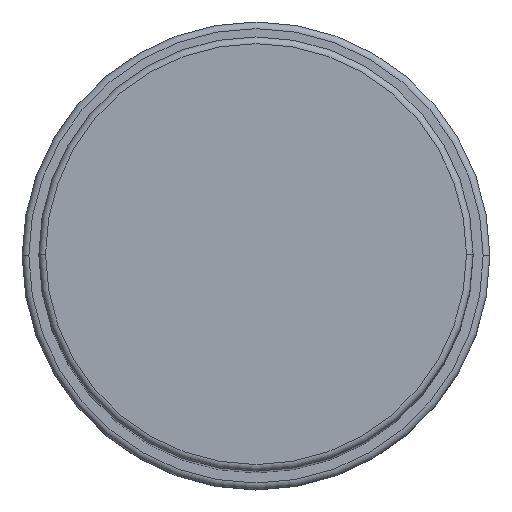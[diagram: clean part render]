
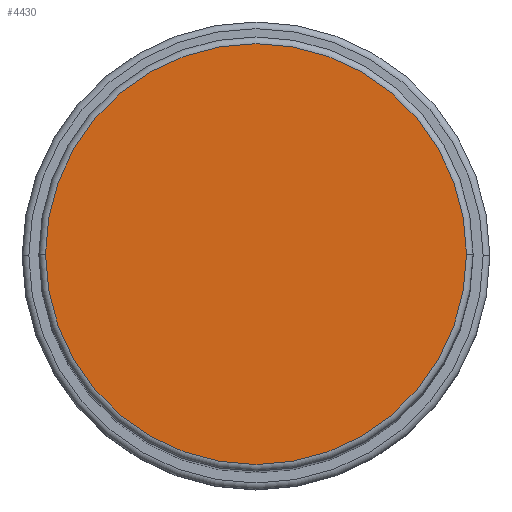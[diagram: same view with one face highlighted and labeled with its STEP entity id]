
A CAD part, top view. The second image highlights one B-rep face of the part: STEP entity #4430.
In plain terms, the highlighted planar face has unit normal (0, 0, 1).
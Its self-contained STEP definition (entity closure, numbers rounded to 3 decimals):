
#57 = AXIS2_PLACEMENT_3D ( 'NONE', #1250, #2105, #1713 ) ;
#92 = ORIENTED_EDGE ( 'NONE', *, *, #1845, .T. ) ;
#98 = CARTESIAN_POINT ( 'NONE',  ( 0., 0., 163. ) ) ;
#101 = CARTESIAN_POINT ( 'NONE',  ( -31.5, 0., 163. ) ) ;
#428 = PLANE ( 'NONE',  #3163 ) ;
#479 = CARTESIAN_POINT ( 'NONE',  ( 0., 0., 163. ) ) ;
#535 = VERTEX_POINT ( 'NONE', #101 ) ;
#1096 = CARTESIAN_POINT ( 'NONE',  ( 31.5, 0., 163. ) ) ;
#1250 = CARTESIAN_POINT ( 'NONE',  ( 0., 0., 163. ) ) ;
#1271 = VERTEX_POINT ( 'NONE', #1096 ) ;
#1513 = AXIS2_PLACEMENT_3D ( 'NONE', #98, #3479, #2190 ) ;
#1713 = DIRECTION ( 'NONE',  ( 1., 0., 0. ) ) ;
#1845 = EDGE_CURVE ( 'NONE', #1271, #535, #2130, .T. ) ;
#2105 = DIRECTION ( 'NONE',  ( 0., 0., 1. ) ) ;
#2130 = CIRCLE ( 'NONE', #57, 31.5 ) ;
#2190 = DIRECTION ( 'NONE',  ( 1., 0., 0. ) ) ;
#2608 = DIRECTION ( 'NONE',  ( 1., 0., 0. ) ) ;
#3163 = AXIS2_PLACEMENT_3D ( 'NONE', #479, #4288, #2608 ) ;
#3479 = DIRECTION ( 'NONE',  ( 0., 0., 1. ) ) ;
#3505 = EDGE_CURVE ( 'NONE', #535, #1271, #5144, .T. ) ;
#3845 = EDGE_LOOP ( 'NONE', ( #92, #5088 ) ) ;
#4281 = FACE_OUTER_BOUND ( 'NONE', #3845, .T. ) ;
#4288 = DIRECTION ( 'NONE',  ( 0., 0., 1. ) ) ;
#4430 = ADVANCED_FACE ( 'NONE', ( #4281 ), #428, .T. ) ;
#5088 = ORIENTED_EDGE ( 'NONE', *, *, #3505, .T. ) ;
#5144 = CIRCLE ( 'NONE', #1513, 31.5 ) ;
